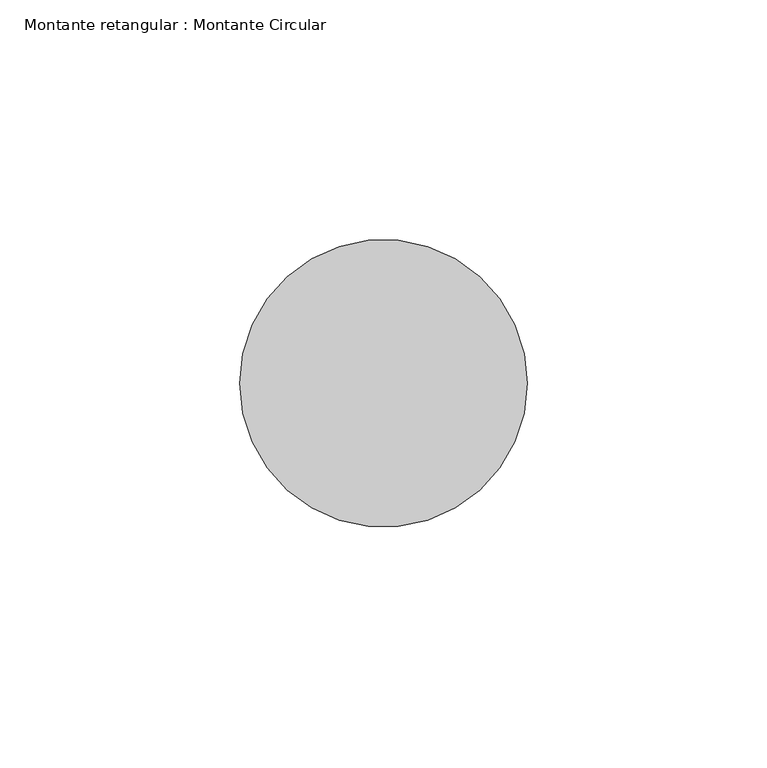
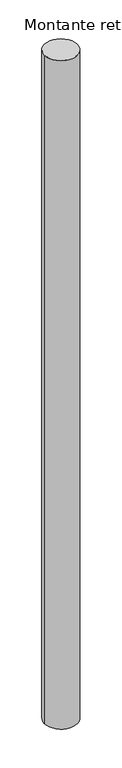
"""IFC4 building model written with IfcOpenShell, lengths in millimetres: member geometry, Montante retangular : Montante Circular."""

from ifc_helpers import new_model, si_unit, point, frame, frame_2d, origin, place, context, project, spatial, circle_curve, trimmed, segment, composite_curve, outline, extrude, source, transform, mapped, element, save


def montante_retangular_montante_circular_1c767b1c(model_context):
    return source(origin(), model_context, "Body", "SweptSolid", [
        extrude(outline(composite_curve([segment(trimmed(circle_curve(frame_2d((-30.0, 0.0)), 30.0), [point((0.0, 0.0))], [point((-60.0, 0.0))], False, "CARTESIAN"), True, "CONTINUOUS"), segment(trimmed(circle_curve(frame_2d((-30.0, 0.0)), 30.0), [point((-60.0, 0.0))], [point((0.0, 0.0))], False, "CARTESIAN"), True, "CONTINUOUS")], self_intersect=False)), frame((0.0, 0.0, -1287.2954857), z_axis=(0.0, 0.0, 1.0), x_axis=(1.0, 0.0, 0.0)), (0.0, 0.0, 1.0), 1287.2954857),
    ])


if __name__ == "__main__":
    model = new_model("IFC4")
    model_context = context("Model", 3, world=origin())
    ifc_project = project(units=[si_unit("LENGTHUNIT", "METRE", prefix="MILLI")], contexts=[model_context])
    site = spatial("IfcSite", under=ifc_project)
    building = spatial("IfcBuilding", under=site)
    placement = place(None, origin())
    montante_retangular_montante_circular_shape = montante_retangular_montante_circular_1c767b1c(model_context)
    element("IfcMember", 1, ObjectType="Montante retangular : Montante Circular", at=placement, inside=building, context=model_context, shape_type="MappedRepresentation", body=[
        mapped(montante_retangular_montante_circular_shape, transform((0.0, 0.0, 0.0), x_axis=(1.0, 0.0, 0.0), y_axis=(0.0, 1.0, 0.0), z_axis=(0.0, 0.0, 1.0))),
    ])
    save(model, "model.ifc")
